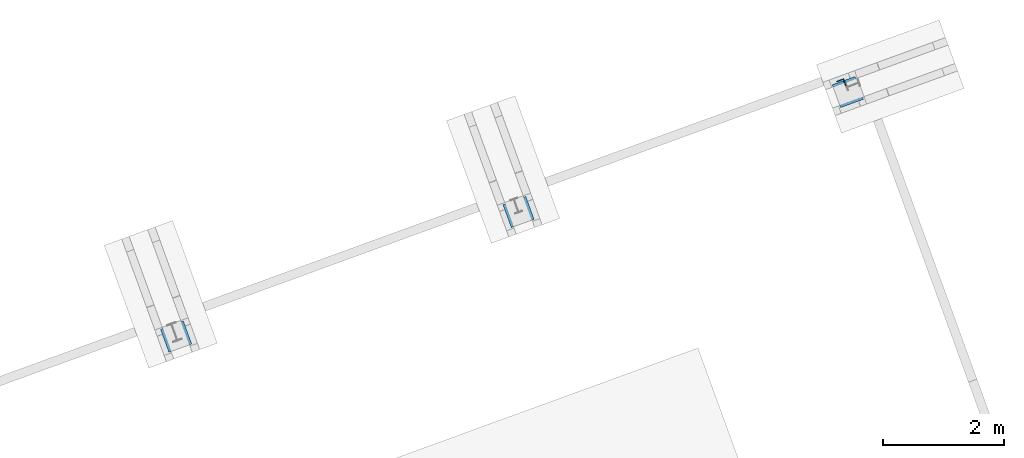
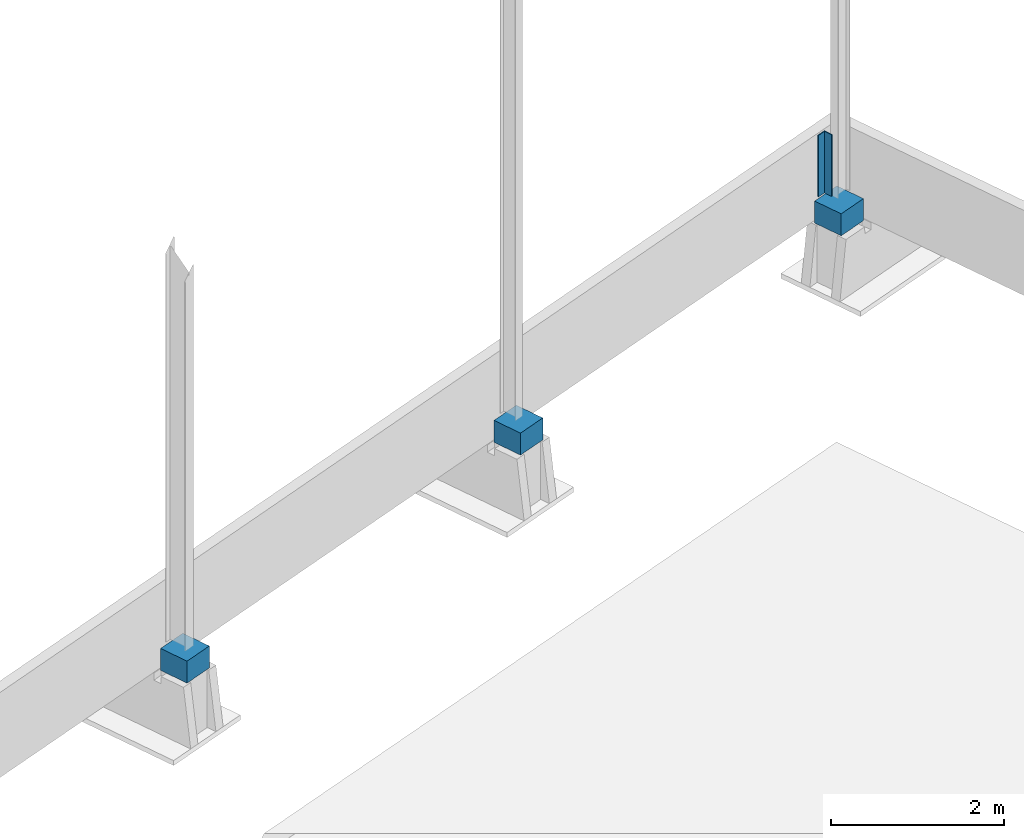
# One storey, part 11 of 20: 4 beams, 4 elements without a shape of their own.
"""IFC4 building model written with IfcOpenShell, lengths in millimetres."""

from ifc_helpers import new_model, si_unit, direction, frame, origin_with_axes, place, context, subcontext, project, spatial, line, indexed_curve, outline, extrude, material, element, aggregate, save


model = new_model("IFC4")

# Units and contexts
model_context = context("Model", 3, precision=0.2, world=frame((203566.813, 116264.779, 0.0), z_axis=(0.0, 0.0, 1.0), x_axis=(1.0, 0.0, 0.0)), true_north=direction((-0.9396138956, -0.3422363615)))
body_context = subcontext(model_context, "Body", "Model", "MODEL_VIEW")
ifc_project = project(units=[si_unit("LENGTHUNIT", "METRE", prefix="MILLI"), si_unit("AREAUNIT", "SQUARE_METRE"), si_unit("VOLUMEUNIT", "CUBIC_METRE"), si_unit("MASSUNIT", "GRAM", prefix="KILO"), si_unit("TIMEUNIT", "SECOND"), si_unit("PLANEANGLEUNIT", "RADIAN"), si_unit("SOLIDANGLEUNIT", "STERADIAN"), si_unit("THERMODYNAMICTEMPERATUREUNIT", "DEGREE_CELSIUS"), si_unit("LUMINOUSINTENSITYUNIT", "LUMEN")], contexts=[model_context])

# Site, building, storey
site_placement = place(None, origin_with_axes())
site = spatial("IfcSite", under=ifc_project, at=site_placement, Name="Nobelprojektet", CompositionType="ELEMENT")
building_placement = place(site_placement, origin_with_axes())
building = spatial("IfcBuilding", under=site, at=building_placement, Name="Hall B", CompositionType="ELEMENT")
storey_placement = place(building_placement, frame((0.0, 0.0, 1000.0), z_axis=(0.0, 0.0, 1.0), x_axis=(1.0, 0.0, 0.0)))
storey = spatial("IfcBuildingStorey", under=building, at=storey_placement, Name="Plan_1", CompositionType="ELEMENT", Elevation=1000.0)

# Assembly, beam
assembly_1_placement = place(storey_placement, frame((161919.53139, 185960.30817, 133049.99996), z_axis=(-0.9396136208, -0.3422371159, 0.0), x_axis=(0.0, 0.0, -1.0)))
assembly_1 = element("IfcElementAssembly", 1, at=assembly_1_placement, inside=storey, Name="BEFINTLIG", PredefinedType="NOTDEFINED")
ifc_material_1 = material(Name="S355J2", Category="STEEL")
beam_1_placement = place(assembly_1_placement, origin_with_axes())
beam_1 = element("IfcBeam", 2, at=beam_1_placement, material=ifc_material_1, Name="BEFINTLIG", PredefinedType="NOTDEFINED", context=body_context, shape_type="SolidModel", body=[
    extrude(outline(indexed_curve([(-60.0, -60.0), (60.0, -60.0), (60.0, -48.0), (-48.0, -48.0), (-48.0, 60.0), (-60.0, 60.0)], segments=[line(1, 2, 3, 4, 5, 6, 1)])), frame((0.0, 0.0, 0.0), z_axis=(-1.0, 0.0, 0.0), x_axis=(0.0, 0.0, 1.0)), (0.0, 0.0, -1.0), 870.0),
])
aggregate(assembly_1, [beam_1])

assembly_2_placement = place(storey_placement, frame((151033.88293, 181601.62643, 132024.99996), z_axis=(-0.9396136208, -0.3422371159, 0.0), x_axis=(-0.3422371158, 0.9396136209, 1.3e-09)))
assembly_2 = element("IfcElementAssembly", 3, at=assembly_2_placement, inside=storey, Name="BEFINTLIG", PredefinedType="NOTDEFINED")
ifc_material_2 = material(Name="C25/30", Category="CONCRETE")
beam_2_placement = place(assembly_2_placement, origin_with_axes())
beam_2 = element("IfcBeam", 4, at=beam_2_placement, material=ifc_material_2, Name="BEFINTLIG", PredefinedType="NOTDEFINED", context=body_context, shape_type="SolidModel", body=[
    extrude(outline(indexed_curve([(-200.0, -155.0), (200.0, -155.0), (200.0, 155.0), (-200.0, 155.0)], segments=[line(1, 2, 3, 4, 1)])), frame((0.0, 0.0, 0.0), z_axis=(-1.0, 0.0, 0.0), x_axis=(0.0, 0.0, 1.0)), (0.0, 0.0, -1.0), 400.0),
])
aggregate(assembly_2, [beam_2])

assembly_3_placement = place(storey_placement, frame((156671.56465, 183655.04912, 132024.99996), z_axis=(-0.9396136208, -0.3422371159, 0.0), x_axis=(-0.3422371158, 0.9396136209, 1.3e-09)))
assembly_3 = element("IfcElementAssembly", 5, at=assembly_3_placement, inside=storey, Name="BEFINTLIG", PredefinedType="NOTDEFINED")
beam_3_placement = place(assembly_3_placement, origin_with_axes())
beam_3 = element("IfcBeam", 6, at=beam_3_placement, material=ifc_material_2, Name="BEFINTLIG", PredefinedType="NOTDEFINED", context=body_context, shape_type="SolidModel", body=[
    extrude(outline(indexed_curve([(-200.0, -155.0), (200.0, -155.0), (200.0, 155.0), (-200.0, 155.0)], segments=[line(1, 2, 3, 4, 1)])), frame((0.0, 0.0, 0.0), z_axis=(-1.0, 0.0, 0.0), x_axis=(0.0, 0.0, 1.0)), (0.0, 0.0, -1.0), 400.0),
])
aggregate(assembly_3, [beam_3])

assembly_4_placement = place(storey_placement, frame((161836.76036, 185749.23438, 132024.99996), z_axis=(-0.3422371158, 0.9396136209, 1.3e-09), x_axis=(0.9396136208, 0.3422371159, 0.0)))
assembly_4 = element("IfcElementAssembly", 7, at=assembly_4_placement, inside=storey, Name="BEFINTLIG", PredefinedType="NOTDEFINED")
beam_4_placement = place(assembly_4_placement, origin_with_axes())
beam_4 = element("IfcBeam", 8, at=beam_4_placement, material=ifc_material_2, Name="BEFINTLIG", PredefinedType="NOTDEFINED", context=body_context, shape_type="SolidModel", body=[
    extrude(outline(indexed_curve([(-200.0, -155.0), (200.0, -155.0), (200.0, 155.0), (-200.0, 155.0)], segments=[line(1, 2, 3, 4, 1)])), frame((0.0, 0.0, 0.0), z_axis=(-1.0, 0.0, 0.0), x_axis=(0.0, 0.0, 1.0)), (0.0, 0.0, -1.0), 400.0),
])
aggregate(assembly_4, [beam_4])

save(model, "model.ifc")
